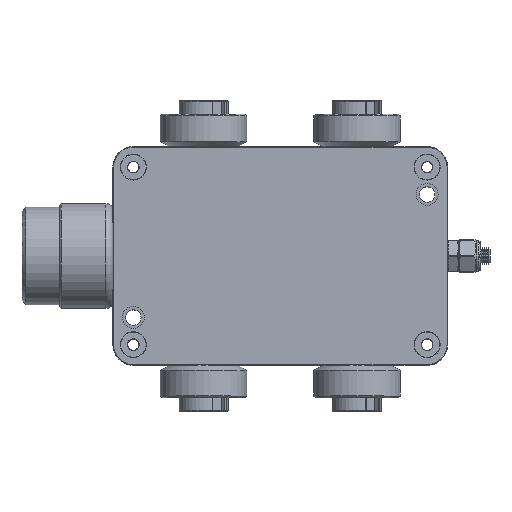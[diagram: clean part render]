
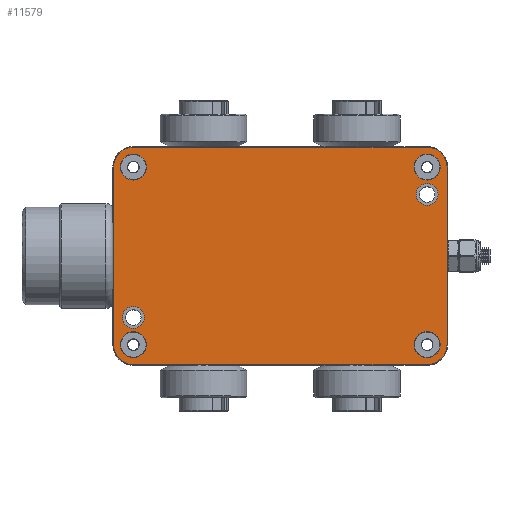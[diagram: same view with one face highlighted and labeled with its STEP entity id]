
A CAD part, top view. The second image highlights one B-rep face of the part: STEP entity #11579.
In plain terms, the highlighted planar face has unit normal (0, 0, 1).
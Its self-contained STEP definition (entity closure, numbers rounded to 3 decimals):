
#115 = DIRECTION ( 'NONE',  ( -1., 0., 0. ) ) ;
#226 = ORIENTED_EDGE ( 'NONE', *, *, #5061, .F. ) ;
#362 = DIRECTION ( 'NONE',  ( 0., 1., 0. ) ) ;
#402 = DIRECTION ( 'NONE',  ( -1., 0., 0. ) ) ;
#545 = CARTESIAN_POINT ( 'NONE',  ( -43., 26., 6.3 ) ) ;
#584 = AXIS2_PLACEMENT_3D ( 'NONE', #10328, #14888, #115 ) ;
#625 = CIRCLE ( 'NONE', #1109, 3.8 ) ;
#634 = FACE_BOUND ( 'NONE', #2813, .T. ) ;
#713 = DIRECTION ( 'NONE',  ( -1., 0., 0. ) ) ;
#772 = FACE_BOUND ( 'NONE', #3973, .T. ) ;
#814 = VECTOR ( 'NONE', #13005, 1000. ) ;
#990 = CARTESIAN_POINT ( 'NONE',  ( 43., 26., 6.3 ) ) ;
#1109 = AXIS2_PLACEMENT_3D ( 'NONE', #990, #6798, #3483 ) ;
#1243 = VERTEX_POINT ( 'NONE', #12752 ) ;
#1450 = DIRECTION ( 'NONE',  ( 0., 0., -1. ) ) ;
#1470 = DIRECTION ( 'NONE',  ( -1., 0., 0. ) ) ;
#1571 = ORIENTED_EDGE ( 'NONE', *, *, #11746, .T. ) ;
#1645 = VERTEX_POINT ( 'NONE', #3186 ) ;
#2089 = VERTEX_POINT ( 'NONE', #14801 ) ;
#2137 = VERTEX_POINT ( 'NONE', #3512 ) ;
#2236 = CIRCLE ( 'NONE', #6828, 5.834 ) ;
#2277 = CIRCLE ( 'NONE', #3749, 3.2 ) ;
#2399 = DIRECTION ( 'NONE',  ( 0., 0., -1. ) ) ;
#2618 = VERTEX_POINT ( 'NONE', #7221 ) ;
#2813 = EDGE_LOOP ( 'NONE', ( #12604 ) ) ;
#2967 = FACE_BOUND ( 'NONE', #5165, .T. ) ;
#2974 = VERTEX_POINT ( 'NONE', #3355 ) ;
#3186 = CARTESIAN_POINT ( 'NONE',  ( -43., 31.834, 6.3 ) ) ;
#3200 = DIRECTION ( 'NONE',  ( -1., 0., 0. ) ) ;
#3270 = CARTESIAN_POINT ( 'NONE',  ( -48.834, 26., 6.3 ) ) ;
#3297 = CARTESIAN_POINT ( 'NONE',  ( 43., -31.834, 6.3 ) ) ;
#3355 = CARTESIAN_POINT ( 'NONE',  ( 48.834, -26., 6.3 ) ) ;
#3483 = DIRECTION ( 'NONE',  ( -1., 0., 0. ) ) ;
#3512 = CARTESIAN_POINT ( 'NONE',  ( -46.8, 26., 6.3 ) ) ;
#3689 = VERTEX_POINT ( 'NONE', #6766 ) ;
#3749 = AXIS2_PLACEMENT_3D ( 'NONE', #11830, #8574, #1470 ) ;
#3973 = EDGE_LOOP ( 'NONE', ( #8098 ) ) ;
#3982 = EDGE_CURVE ( 'NONE', #3689, #11496, #2236, .T. ) ;
#4012 = VERTEX_POINT ( 'NONE', #8137 ) ;
#4098 = DIRECTION ( 'NONE',  ( 0., 0., -1. ) ) ;
#4123 = FACE_BOUND ( 'NONE', #7044, .T. ) ;
#4375 = ORIENTED_EDGE ( 'NONE', *, *, #11698, .F. ) ;
#4581 = ORIENTED_EDGE ( 'NONE', *, *, #6488, .T. ) ;
#4585 = EDGE_CURVE ( 'NONE', #2974, #8779, #9724, .T. ) ;
#4684 = CIRCLE ( 'NONE', #14098, 5.834 ) ;
#4745 = CARTESIAN_POINT ( 'NONE',  ( -43., -31.834, 6.3 ) ) ;
#4751 = CARTESIAN_POINT ( 'NONE',  ( 43., 26., 6.3 ) ) ;
#5061 = EDGE_CURVE ( 'NONE', #1645, #3689, #5740, .T. ) ;
#5165 = EDGE_LOOP ( 'NONE', ( #12212 ) ) ;
#5214 = CARTESIAN_POINT ( 'NONE',  ( -43., -18., 6.3 ) ) ;
#5242 = DIRECTION ( 'NONE',  ( 0., 0., -1. ) ) ;
#5281 = EDGE_CURVE ( 'NONE', #8779, #9640, #8589, .T. ) ;
#5290 = LINE ( 'NONE', #14143, #814 ) ;
#5586 = DIRECTION ( 'NONE',  ( 1., 0., 0. ) ) ;
#5740 = LINE ( 'NONE', #10339, #12711 ) ;
#5743 = CARTESIAN_POINT ( 'NONE',  ( -43., -26., 6.3 ) ) ;
#5889 = CIRCLE ( 'NONE', #584, 3.8 ) ;
#5957 = EDGE_LOOP ( 'NONE', ( #11131 ) ) ;
#5981 = ORIENTED_EDGE ( 'NONE', *, *, #13140, .F. ) ;
#6288 = VERTEX_POINT ( 'NONE', #3270 ) ;
#6488 = EDGE_CURVE ( 'NONE', #2089, #2089, #625, .T. ) ;
#6766 = CARTESIAN_POINT ( 'NONE',  ( 43., 31.834, 6.3 ) ) ;
#6798 = DIRECTION ( 'NONE',  ( 0., 0., -1. ) ) ;
#6828 = AXIS2_PLACEMENT_3D ( 'NONE', #4751, #11467, #10338 ) ;
#7044 = EDGE_LOOP ( 'NONE', ( #4581 ) ) ;
#7221 = CARTESIAN_POINT ( 'NONE',  ( 39.2, -26., 6.3 ) ) ;
#7233 = LINE ( 'NONE', #9352, #9040 ) ;
#7328 = CIRCLE ( 'NONE', #14589, 3.8 ) ;
#7333 = DIRECTION ( 'NONE',  ( 0., 0., -1. ) ) ;
#7347 = CARTESIAN_POINT ( 'NONE',  ( 48.834, 26., 6.3 ) ) ;
#7715 = DIRECTION ( 'NONE',  ( -1., 0., 0. ) ) ;
#7782 = FACE_BOUND ( 'NONE', #10106, .T. ) ;
#7811 = AXIS2_PLACEMENT_3D ( 'NONE', #5214, #4098, #3200 ) ;
#7866 = CIRCLE ( 'NONE', #8336, 3.8 ) ;
#8038 = AXIS2_PLACEMENT_3D ( 'NONE', #12187, #5242, #7715 ) ;
#8061 = EDGE_CURVE ( 'NONE', #1243, #1243, #7866, .T. ) ;
#8098 = ORIENTED_EDGE ( 'NONE', *, *, #9780, .T. ) ;
#8137 = CARTESIAN_POINT ( 'NONE',  ( -48.834, -26., 6.3 ) ) ;
#8336 = AXIS2_PLACEMENT_3D ( 'NONE', #5743, #2399, #10481 ) ;
#8343 = VECTOR ( 'NONE', #14495, 1000. ) ;
#8467 = CARTESIAN_POINT ( 'NONE',  ( -43., -26., 6.3 ) ) ;
#8574 = DIRECTION ( 'NONE',  ( 0., 0., -1. ) ) ;
#8589 = LINE ( 'NONE', #9576, #8343 ) ;
#8779 = VERTEX_POINT ( 'NONE', #3297 ) ;
#9040 = VECTOR ( 'NONE', #362, 1000. ) ;
#9261 = CIRCLE ( 'NONE', #7811, 3.2 ) ;
#9352 = CARTESIAN_POINT ( 'NONE',  ( -48.834, 26., 6.3 ) ) ;
#9573 = EDGE_CURVE ( 'NONE', #2618, #2618, #5889, .T. ) ;
#9576 = CARTESIAN_POINT ( 'NONE',  ( -43., -31.834, 6.3 ) ) ;
#9640 = VERTEX_POINT ( 'NONE', #4745 ) ;
#9724 = CIRCLE ( 'NONE', #12636, 5.834 ) ;
#9780 = EDGE_CURVE ( 'NONE', #12574, #12574, #2277, .T. ) ;
#9971 = CARTESIAN_POINT ( 'NONE',  ( -43., 26., 6.3 ) ) ;
#10069 = FACE_BOUND ( 'NONE', #5957, .T. ) ;
#10106 = EDGE_LOOP ( 'NONE', ( #1571 ) ) ;
#10132 = EDGE_CURVE ( 'NONE', #6288, #1645, #12189, .T. ) ;
#10328 = CARTESIAN_POINT ( 'NONE',  ( 43., -26., 6.3 ) ) ;
#10338 = DIRECTION ( 'NONE',  ( -1., 0., 0. ) ) ;
#10339 = CARTESIAN_POINT ( 'NONE',  ( 43., 31.834, 6.3 ) ) ;
#10440 = CARTESIAN_POINT ( 'NONE',  ( -46.2, -18., 6.3 ) ) ;
#10481 = DIRECTION ( 'NONE',  ( -1., 0., 0. ) ) ;
#10646 = ORIENTED_EDGE ( 'NONE', *, *, #10132, .F. ) ;
#11131 = ORIENTED_EDGE ( 'NONE', *, *, #8061, .T. ) ;
#11143 = ORIENTED_EDGE ( 'NONE', *, *, #5281, .F. ) ;
#11464 = ORIENTED_EDGE ( 'NONE', *, *, #4585, .F. ) ;
#11467 = DIRECTION ( 'NONE',  ( 0., 0., -1. ) ) ;
#11496 = VERTEX_POINT ( 'NONE', #7347 ) ;
#11507 = VERTEX_POINT ( 'NONE', #10440 ) ;
#11579 = ADVANCED_FACE ( 'NONE', ( #2967, #634, #10069, #4123, #772, #7782, #14470 ), #12405, .F. ) ;
#11698 = EDGE_CURVE ( 'NONE', #11496, #2974, #5290, .T. ) ;
#11746 = EDGE_CURVE ( 'NONE', #11507, #11507, #9261, .T. ) ;
#11830 = CARTESIAN_POINT ( 'NONE',  ( 43., 18., 6.3 ) ) ;
#12035 = DIRECTION ( 'NONE',  ( -1., 0., 0. ) ) ;
#12157 = EDGE_CURVE ( 'NONE', #2137, #2137, #7328, .T. ) ;
#12187 = CARTESIAN_POINT ( 'NONE',  ( 0., 0., 6.3 ) ) ;
#12189 = CIRCLE ( 'NONE', #14616, 5.834 ) ;
#12212 = ORIENTED_EDGE ( 'NONE', *, *, #12157, .T. ) ;
#12269 = EDGE_LOOP ( 'NONE', ( #4375, #13337, #226, #10646, #13047, #5981, #11143, #11464 ) ) ;
#12317 = DIRECTION ( 'NONE',  ( -1., 0., 0. ) ) ;
#12405 = PLANE ( 'NONE',  #8038 ) ;
#12574 = VERTEX_POINT ( 'NONE', #12645 ) ;
#12604 = ORIENTED_EDGE ( 'NONE', *, *, #9573, .T. ) ;
#12636 = AXIS2_PLACEMENT_3D ( 'NONE', #14830, #13830, #713 ) ;
#12645 = CARTESIAN_POINT ( 'NONE',  ( 39.8, 18., 6.3 ) ) ;
#12711 = VECTOR ( 'NONE', #5586, 1000. ) ;
#12752 = CARTESIAN_POINT ( 'NONE',  ( -46.8, -26., 6.3 ) ) ;
#13005 = DIRECTION ( 'NONE',  ( 0., -1., 0. ) ) ;
#13047 = ORIENTED_EDGE ( 'NONE', *, *, #13984, .F. ) ;
#13140 = EDGE_CURVE ( 'NONE', #9640, #4012, #4684, .T. ) ;
#13165 = DIRECTION ( 'NONE',  ( 0., 0., -1. ) ) ;
#13337 = ORIENTED_EDGE ( 'NONE', *, *, #3982, .F. ) ;
#13830 = DIRECTION ( 'NONE',  ( 0., 0., -1. ) ) ;
#13984 = EDGE_CURVE ( 'NONE', #4012, #6288, #7233, .T. ) ;
#14098 = AXIS2_PLACEMENT_3D ( 'NONE', #8467, #7333, #402 ) ;
#14143 = CARTESIAN_POINT ( 'NONE',  ( 48.834, -26., 6.3 ) ) ;
#14470 = FACE_OUTER_BOUND ( 'NONE', #12269, .T. ) ;
#14495 = DIRECTION ( 'NONE',  ( -1., 0., 0. ) ) ;
#14589 = AXIS2_PLACEMENT_3D ( 'NONE', #9971, #13165, #12317 ) ;
#14616 = AXIS2_PLACEMENT_3D ( 'NONE', #545, #1450, #12035 ) ;
#14801 = CARTESIAN_POINT ( 'NONE',  ( 39.2, 26., 6.3 ) ) ;
#14830 = CARTESIAN_POINT ( 'NONE',  ( 43., -26., 6.3 ) ) ;
#14888 = DIRECTION ( 'NONE',  ( 0., 0., -1. ) ) ;
